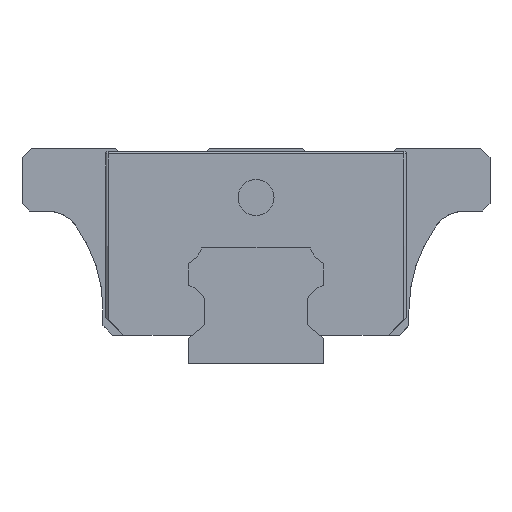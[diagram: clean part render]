
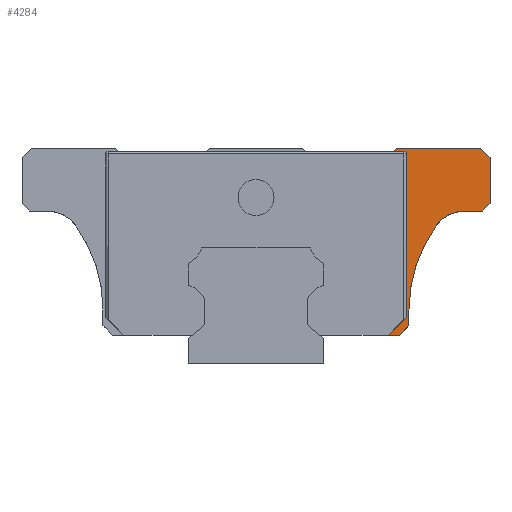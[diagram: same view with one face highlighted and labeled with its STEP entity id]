
A CAD part, left-side view. The second image highlights one B-rep face of the part: STEP entity #4284.
In plain terms, the highlighted planar face has unit normal (-1, 0, 0).
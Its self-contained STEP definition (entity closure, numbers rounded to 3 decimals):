
#8 = DIRECTION ( 'NONE',  ( 0., -0.707, 0.707 ) ) ;
#62 = AXIS2_PLACEMENT_3D ( 'NONE', #1196, #7213, #6175 ) ;
#137 = VECTOR ( 'NONE', #3774, 1000. ) ;
#192 = CARTESIAN_POINT ( 'NONE',  ( -11.45, -23.253, 17. ) ) ;
#196 = CARTESIAN_POINT ( 'NONE',  ( -11.45, -26., 22.95 ) ) ;
#302 = CARTESIAN_POINT ( 'NONE',  ( -11.45, -16.702, 23.335 ) ) ;
#329 = VERTEX_POINT ( 'NONE', #302 ) ;
#466 = DIRECTION ( 'NONE',  ( 0., 1., 0. ) ) ;
#476 = LINE ( 'NONE', #7226, #6662 ) ;
#520 = DIRECTION ( 'NONE',  ( 0., 0., 1. ) ) ;
#735 = CARTESIAN_POINT ( 'NONE',  ( -11.45, -17., 4.25 ) ) ;
#779 = CIRCLE ( 'NONE', #3739, 4. ) ;
#789 = DIRECTION ( 'NONE',  ( 0., -1., 0. ) ) ;
#863 = VERTEX_POINT ( 'NONE', #5167 ) ;
#893 = CARTESIAN_POINT ( 'NONE',  ( -11.45, -17., 4.25 ) ) ;
#927 = DIRECTION ( 'NONE',  ( 1., 0., 0. ) ) ;
#967 = VECTOR ( 'NONE', #3515, 1000. ) ;
#1013 = VECTOR ( 'NONE', #5009, 1000. ) ;
#1014 = CARTESIAN_POINT ( 'NONE',  ( -11.45, -18.027, 23.595 ) ) ;
#1021 = CARTESIAN_POINT ( 'NONE',  ( -11.45, -6.587, 3.2 ) ) ;
#1098 = EDGE_CURVE ( 'NONE', #863, #4819, #2464, .T. ) ;
#1196 = CARTESIAN_POINT ( 'NONE',  ( -11.45, -16.442, 23.335 ) ) ;
#1278 = EDGE_CURVE ( 'NONE', #1579, #4228, #1422, .T. ) ;
#1311 = ORIENTED_EDGE ( 'NONE', *, *, #1098, .T. ) ;
#1330 = ORIENTED_EDGE ( 'NONE', *, *, #5344, .T. ) ;
#1422 = LINE ( 'NONE', #6569, #5166 ) ;
#1436 = CARTESIAN_POINT ( 'NONE',  ( -11.45, -20.004, 15.333 ) ) ;
#1445 = LINE ( 'NONE', #735, #5190 ) ;
#1503 = FACE_OUTER_BOUND ( 'NONE', #2558, .T. ) ;
#1520 = VECTOR ( 'NONE', #789, 1000. ) ;
#1579 = VERTEX_POINT ( 'NONE', #196 ) ;
#1621 = LINE ( 'NONE', #2778, #1013 ) ;
#1631 = DIRECTION ( 'NONE',  ( 1., 0., 0. ) ) ;
#1663 = CIRCLE ( 'NONE', #5313, 16. ) ;
#1839 = ORIENTED_EDGE ( 'NONE', *, *, #1935, .F. ) ;
#1918 = VERTEX_POINT ( 'NONE', #2025 ) ;
#1935 = EDGE_CURVE ( 'NONE', #5503, #7243, #7214, .T. ) ;
#1961 = ORIENTED_EDGE ( 'NONE', *, *, #3599, .T. ) ;
#2015 = CARTESIAN_POINT ( 'NONE',  ( -11.45, -25.2, 17. ) ) ;
#2025 = CARTESIAN_POINT ( 'NONE',  ( -11.45, -26., 17.8 ) ) ;
#2183 = DIRECTION ( 'NONE',  ( 0., 0., 1. ) ) ;
#2254 = ORIENTED_EDGE ( 'NONE', *, *, #6427, .T. ) ;
#2276 = LINE ( 'NONE', #5025, #4672 ) ;
#2464 = LINE ( 'NONE', #2943, #3839 ) ;
#2474 = VERTEX_POINT ( 'NONE', #5858 ) ;
#2497 = DIRECTION ( 'NONE',  ( 0., 1., 0. ) ) ;
#2542 = ORIENTED_EDGE ( 'NONE', *, *, #2747, .T. ) ;
#2558 = EDGE_LOOP ( 'NONE', ( #4079, #6919, #6642, #1330, #5221, #1839, #6274, #4021, #5435, #1311, #2924, #2542, #1961, #6944, #2254 ) ) ;
#2747 = EDGE_CURVE ( 'NONE', #5040, #3804, #476, .T. ) ;
#2750 = EDGE_CURVE ( 'NONE', #6584, #7243, #1621, .T. ) ;
#2778 = CARTESIAN_POINT ( 'NONE',  ( -11.45, -15.6, 24. ) ) ;
#2805 = VECTOR ( 'NONE', #6868, 1000. ) ;
#2921 = VECTOR ( 'NONE', #466, 1000. ) ;
#2924 = ORIENTED_EDGE ( 'NONE', *, *, #3812, .T. ) ;
#2943 = CARTESIAN_POINT ( 'NONE',  ( -11.45, -8.424, 3.2 ) ) ;
#3055 = LINE ( 'NONE', #5982, #5883 ) ;
#3063 = EDGE_CURVE ( 'NONE', #4272, #3791, #779, .T. ) ;
#3131 = DIRECTION ( 'NONE',  ( 0., 0.707, 0.707 ) ) ;
#3141 = CARTESIAN_POINT ( 'NONE',  ( -11.45, -15.26, 23.595 ) ) ;
#3153 = EDGE_CURVE ( 'NONE', #2474, #1918, #2276, .T. ) ;
#3201 = DIRECTION ( 'NONE',  ( 0., 0., 1. ) ) ;
#3269 = CARTESIAN_POINT ( 'NONE',  ( -11.45, -15.6, 24. ) ) ;
#3372 = EDGE_CURVE ( 'NONE', #1918, #1579, #6831, .T. ) ;
#3515 = DIRECTION ( 'NONE',  ( 0., 0., 1. ) ) ;
#3599 = EDGE_CURVE ( 'NONE', #3804, #4272, #1663, .T. ) ;
#3707 = DIRECTION ( 'NONE',  ( 0., -0.707, 0.707 ) ) ;
#3739 = AXIS2_PLACEMENT_3D ( 'NONE', #5986, #927, #3201 ) ;
#3774 = DIRECTION ( 'NONE',  ( 0., -0.707, 0.707 ) ) ;
#3791 = VERTEX_POINT ( 'NONE', #192 ) ;
#3804 = VERTEX_POINT ( 'NONE', #6374 ) ;
#3812 = EDGE_CURVE ( 'NONE', #4819, #5040, #1445, .T. ) ;
#3839 = VECTOR ( 'NONE', #4702, 1000. ) ;
#3917 = EDGE_CURVE ( 'NONE', #863, #7032, #4432, .T. ) ;
#4021 = ORIENTED_EDGE ( 'NONE', *, *, #4194, .F. ) ;
#4079 = ORIENTED_EDGE ( 'NONE', *, *, #3153, .T. ) ;
#4194 = EDGE_CURVE ( 'NONE', #7032, #329, #6443, .T. ) ;
#4228 = VERTEX_POINT ( 'NONE', #4937 ) ;
#4272 = VERTEX_POINT ( 'NONE', #1436 ) ;
#4284 = ADVANCED_FACE ( 'NONE', ( #1503 ), #4971, .T. ) ;
#4432 = LINE ( 'NONE', #7072, #137 ) ;
#4672 = VECTOR ( 'NONE', #8, 1000. ) ;
#4702 = DIRECTION ( 'NONE',  ( 0., -1., 0. ) ) ;
#4738 = EDGE_CURVE ( 'NONE', #5503, #329, #6646, .T. ) ;
#4819 = VERTEX_POINT ( 'NONE', #5393 ) ;
#4864 = DIRECTION ( 'NONE',  ( -1., 0., 0. ) ) ;
#4881 = LINE ( 'NONE', #2015, #1520 ) ;
#4937 = CARTESIAN_POINT ( 'NONE',  ( -11.45, -24.95, 24. ) ) ;
#4971 = PLANE ( 'NONE',  #6495 ) ;
#5009 = DIRECTION ( 'NONE',  ( 0., 0.643, -0.766 ) ) ;
#5025 = CARTESIAN_POINT ( 'NONE',  ( -11.45, -26., 17.8 ) ) ;
#5040 = VERTEX_POINT ( 'NONE', #893 ) ;
#5128 = CARTESIAN_POINT ( 'NONE',  ( -11.45, -16.442, 23.595 ) ) ;
#5166 = VECTOR ( 'NONE', #3131, 1000. ) ;
#5167 = CARTESIAN_POINT ( 'NONE',  ( -11.45, -14.696, 3.2 ) ) ;
#5190 = VECTOR ( 'NONE', #3707, 1000. ) ;
#5221 = ORIENTED_EDGE ( 'NONE', *, *, #2750, .T. ) ;
#5313 = AXIS2_PLACEMENT_3D ( 'NONE', #6674, #1631, #520 ) ;
#5344 = EDGE_CURVE ( 'NONE', #4228, #6584, #3055, .T. ) ;
#5393 = CARTESIAN_POINT ( 'NONE',  ( -11.45, -15.95, 3.2 ) ) ;
#5435 = ORIENTED_EDGE ( 'NONE', *, *, #3917, .F. ) ;
#5503 = VERTEX_POINT ( 'NONE', #5128 ) ;
#5764 = CARTESIAN_POINT ( 'NONE',  ( -11.45, -26., 17. ) ) ;
#5858 = CARTESIAN_POINT ( 'NONE',  ( -11.45, -25.2, 17. ) ) ;
#5883 = VECTOR ( 'NONE', #2497, 1000. ) ;
#5897 = CARTESIAN_POINT ( 'NONE',  ( -11.45, -16.702, 5.2 ) ) ;
#5982 = CARTESIAN_POINT ( 'NONE',  ( -11.45, -26., 24. ) ) ;
#5986 = CARTESIAN_POINT ( 'NONE',  ( -11.45, -23.253, 13. ) ) ;
#6117 = CARTESIAN_POINT ( 'NONE',  ( -11.45, -16.702, 5.206 ) ) ;
#6175 = DIRECTION ( 'NONE',  ( 0., 0., 1. ) ) ;
#6274 = ORIENTED_EDGE ( 'NONE', *, *, #4738, .T. ) ;
#6374 = CARTESIAN_POINT ( 'NONE',  ( -11.45, -17., 6. ) ) ;
#6427 = EDGE_CURVE ( 'NONE', #3791, #2474, #4881, .T. ) ;
#6443 = LINE ( 'NONE', #5897, #967 ) ;
#6495 = AXIS2_PLACEMENT_3D ( 'NONE', #1021, #4864, #2183 ) ;
#6569 = CARTESIAN_POINT ( 'NONE',  ( -11.45, -24.95, 24. ) ) ;
#6584 = VERTEX_POINT ( 'NONE', #3269 ) ;
#6642 = ORIENTED_EDGE ( 'NONE', *, *, #1278, .T. ) ;
#6646 = CIRCLE ( 'NONE', #62, 0.26 ) ;
#6661 = DIRECTION ( 'NONE',  ( 0., 0., 1. ) ) ;
#6662 = VECTOR ( 'NONE', #6661, 1000. ) ;
#6674 = CARTESIAN_POINT ( 'NONE',  ( -11.45, -33., 6. ) ) ;
#6831 = LINE ( 'NONE', #5764, #2805 ) ;
#6868 = DIRECTION ( 'NONE',  ( 0., 0., 1. ) ) ;
#6919 = ORIENTED_EDGE ( 'NONE', *, *, #3372, .T. ) ;
#6944 = ORIENTED_EDGE ( 'NONE', *, *, #3063, .T. ) ;
#7032 = VERTEX_POINT ( 'NONE', #6117 ) ;
#7072 = CARTESIAN_POINT ( 'NONE',  ( -11.45, -14.696, 3.2 ) ) ;
#7213 = DIRECTION ( 'NONE',  ( 1., 0., 0. ) ) ;
#7214 = LINE ( 'NONE', #1014, #2921 ) ;
#7226 = CARTESIAN_POINT ( 'NONE',  ( -11.45, -17., 6. ) ) ;
#7243 = VERTEX_POINT ( 'NONE', #3141 ) ;
